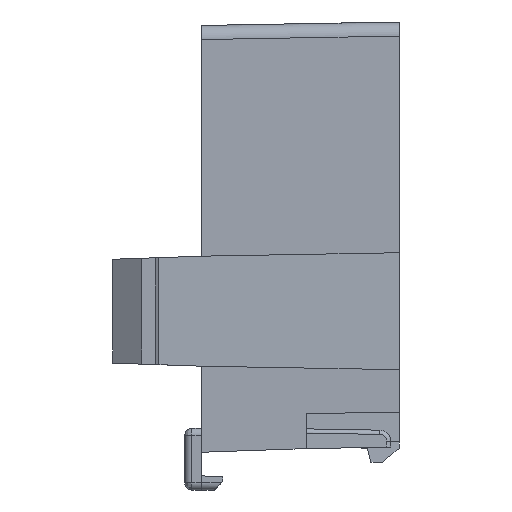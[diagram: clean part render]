
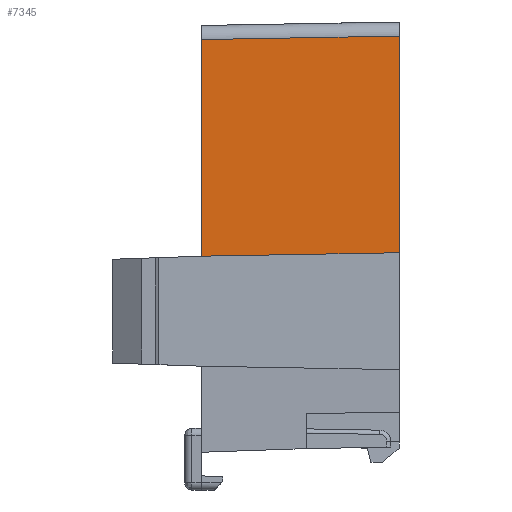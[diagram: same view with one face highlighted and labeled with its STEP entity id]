
A CAD part, left-side view. The second image highlights one B-rep face of the part: STEP entity #7345.
In plain terms, the highlighted planar face has unit normal (-1, 0.018, 0).
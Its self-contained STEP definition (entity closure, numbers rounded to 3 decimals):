
#1731 = CARTESIAN_POINT ( 'NONE',  ( -35.51, 0., 16. ) ) ;
#1968 = VECTOR ( 'NONE', #27501, 1000. ) ;
#3051 = ORIENTED_EDGE ( 'NONE', *, *, #28628, .T. ) ;
#3680 = VECTOR ( 'NONE', #29896, 1000. ) ;
#5905 = EDGE_CURVE ( 'NONE', #16366, #20132, #31254, .T. ) ;
#6110 = LINE ( 'NONE', #28597, #20650 ) ;
#6730 = VECTOR ( 'NONE', #29920, 1000. ) ;
#7345 = ADVANCED_FACE ( 'NONE', ( #21026 ), #33367, .T. ) ;
#7550 = CARTESIAN_POINT ( 'NONE',  ( -35.5, 0.6, -14.462 ) ) ;
#9135 = EDGE_CURVE ( 'NONE', #31342, #24838, #29580, .T. ) ;
#9341 = CARTESIAN_POINT ( 'NONE',  ( -35.266, 14., 0.4 ) ) ;
#10126 = DIRECTION ( 'NONE',  ( -1., 0.017, 0. ) ) ;
#13100 = DIRECTION ( 'NONE',  ( 0., 0., 1. ) ) ;
#16366 = VERTEX_POINT ( 'NONE', #1731 ) ;
#16787 = CARTESIAN_POINT ( 'NONE',  ( -35.266, 14., 0.4 ) ) ;
#16852 = CARTESIAN_POINT ( 'NONE',  ( -35.266, 14., 0. ) ) ;
#19664 = EDGE_LOOP ( 'NONE', ( #3051, #26799, #27185, #25688 ) ) ;
#20132 = VERTEX_POINT ( 'NONE', #20869 ) ;
#20463 = LINE ( 'NONE', #16852, #6730 ) ;
#20650 = VECTOR ( 'NONE', #13100, 1000. ) ;
#20869 = CARTESIAN_POINT ( 'NONE',  ( -35.266, 14., 15.756 ) ) ;
#21026 = FACE_OUTER_BOUND ( 'NONE', #19664, .T. ) ;
#21538 = CARTESIAN_POINT ( 'NONE',  ( -35.51, 0., 0.644 ) ) ;
#24838 = VERTEX_POINT ( 'NONE', #21538 ) ;
#25688 = ORIENTED_EDGE ( 'NONE', *, *, #9135, .T. ) ;
#26799 = ORIENTED_EDGE ( 'NONE', *, *, #5905, .T. ) ;
#27185 = ORIENTED_EDGE ( 'NONE', *, *, #31971, .F. ) ;
#27298 = CARTESIAN_POINT ( 'NONE',  ( -35.51, 0., 16. ) ) ;
#27501 = DIRECTION ( 'NONE',  ( -0.017, -1., 0.017 ) ) ;
#28262 = DIRECTION ( 'NONE',  ( -0.017, -1., 0. ) ) ;
#28597 = CARTESIAN_POINT ( 'NONE',  ( -35.51, 0., -14.462 ) ) ;
#28628 = EDGE_CURVE ( 'NONE', #24838, #16366, #6110, .T. ) ;
#29580 = LINE ( 'NONE', #9341, #1968 ) ;
#29896 = DIRECTION ( 'NONE',  ( 0.017, 1., -0.017 ) ) ;
#29920 = DIRECTION ( 'NONE',  ( 0., 0., 1. ) ) ;
#31254 = LINE ( 'NONE', #27298, #3680 ) ;
#31342 = VERTEX_POINT ( 'NONE', #16787 ) ;
#31971 = EDGE_CURVE ( 'NONE', #31342, #20132, #20463, .T. ) ;
#32472 = AXIS2_PLACEMENT_3D ( 'NONE', #7550, #10126, #28262 ) ;
#33367 = PLANE ( 'NONE',  #32472 ) ;
